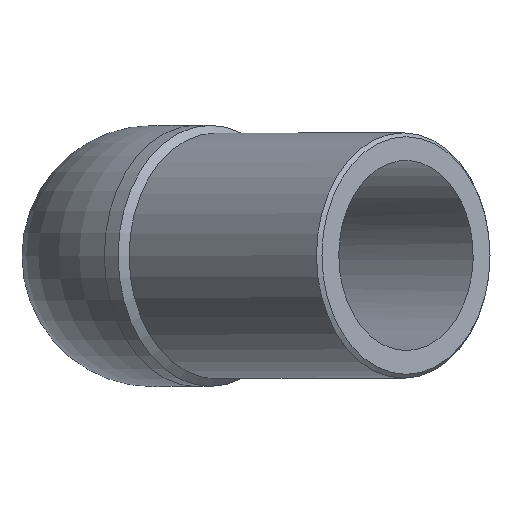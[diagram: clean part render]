
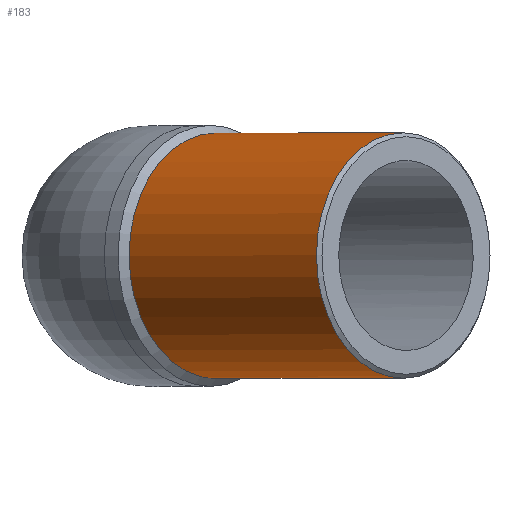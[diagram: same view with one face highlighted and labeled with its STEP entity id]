
A CAD part, top view. The second image highlights one B-rep face of the part: STEP entity #183.
In plain terms, the highlighted cylindrical face has radius 31.5 mm (diameter 63 mm), a full revolution.
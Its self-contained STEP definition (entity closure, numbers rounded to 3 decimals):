
#29=CYLINDRICAL_SURFACE('',#212,31.5);
#37=ORIENTED_EDGE('',*,*,#75,.T.);
#38=ORIENTED_EDGE('',*,*,#73,.F.);
#73=EDGE_CURVE('',#92,#92,#110,.T.);
#75=EDGE_CURVE('',#94,#94,#112,.T.);
#92=VERTEX_POINT('',#301);
#94=VERTEX_POINT('',#306);
#110=CIRCLE('',#210,31.5);
#112=CIRCLE('',#213,31.5);
#126=EDGE_LOOP('',(#37));
#127=EDGE_LOOP('',(#38));
#153=FACE_BOUND('',#126,.T.);
#154=FACE_BOUND('',#127,.T.);
#183=ADVANCED_FACE('',(#153,#154),#29,.T.);
#210=AXIS2_PLACEMENT_3D('',#300,#242,#243);
#212=AXIS2_PLACEMENT_3D('',#304,#246,#247);
#213=AXIS2_PLACEMENT_3D('',#305,#248,#249);
#242=DIRECTION('',(-0.707,0.,-0.707));
#243=DIRECTION('',(-0.707,0.,0.707));
#246=DIRECTION('',(0.707,0.,0.707));
#247=DIRECTION('',(-0.707,0.,0.707));
#248=DIRECTION('',(-0.707,0.,-0.707));
#249=DIRECTION('',(-0.707,0.,0.707));
#300=CARTESIAN_POINT('',(16.263,0.,16.263));
#301=CARTESIAN_POINT('',(-6.01,0.,38.537));
#304=CARTESIAN_POINT('',(65.054,0.,65.054));
#305=CARTESIAN_POINT('',(64.347,0.,64.347));
#306=CARTESIAN_POINT('',(42.073,0.,86.621));
